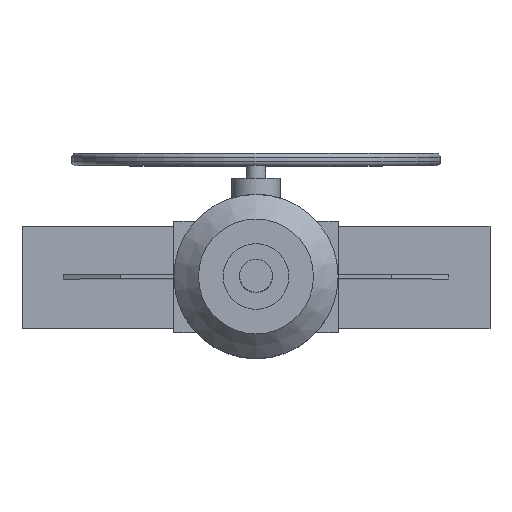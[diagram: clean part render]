
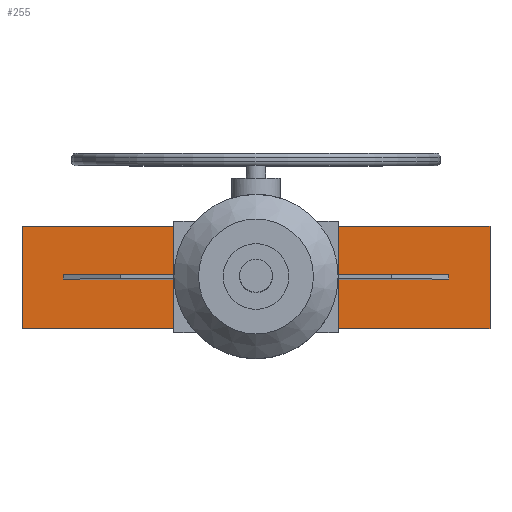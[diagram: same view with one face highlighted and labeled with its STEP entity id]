
A CAD part, top view. The second image highlights one B-rep face of the part: STEP entity #255.
In plain terms, the highlighted planar face has unit normal (0, 0, 1).
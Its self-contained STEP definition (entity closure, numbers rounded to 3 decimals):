
#255=ADVANCED_FACE('',(#2126,#2128),#2130,.T.);
#2126=FACE_BOUND('',#2127,.T.);
#2127=EDGE_LOOP('',(#3698,#3699,#3700,#3701,#3702,#3703,#3704,#3705));
#2128=FACE_BOUND('',#2129,.T.);
#2129=EDGE_LOOP('',(#3706,#3707,#3708,#3709));
#2130=PLANE('',#2131);
#2131=AXIS2_PLACEMENT_3D('',#2132,#2133,#2134);
#2132=CARTESIAN_POINT('',(0.,0.,470.));
#2133=DIRECTION('',(0.,0.,1.));
#2134=DIRECTION('',(1.,0.,0.));
#3698=ORIENTED_EDGE('',*,*,#4622,.F.);
#3699=ORIENTED_EDGE('',*,*,#4620,.T.);
#3700=ORIENTED_EDGE('',*,*,#4629,.T.);
#3701=ORIENTED_EDGE('',*,*,#4611,.T.);
#3702=ORIENTED_EDGE('',*,*,#4625,.F.);
#3703=ORIENTED_EDGE('',*,*,#4615,.T.);
#3704=ORIENTED_EDGE('',*,*,#4630,.T.);
#3705=ORIENTED_EDGE('',*,*,#4616,.T.);
#3706=ORIENTED_EDGE('',*,*,#4631,.F.);
#3707=ORIENTED_EDGE('',*,*,#4632,.F.);
#3708=ORIENTED_EDGE('',*,*,#4633,.F.);
#3709=ORIENTED_EDGE('',*,*,#4634,.F.);
#4611=EDGE_CURVE('',#5129,#5097,#5130,.T.);
#4615=EDGE_CURVE('',#5113,#5135,#5137,.T.);
#4616=EDGE_CURVE('',#5138,#5119,#5139,.T.);
#4620=EDGE_CURVE('',#5103,#5144,#5146,.T.);
#4622=EDGE_CURVE('',#5103,#5119,#5148,.T.);
#4625=EDGE_CURVE('',#5113,#5097,#5152,.T.);
#4629=EDGE_CURVE('',#5144,#5129,#5159,.T.);
#4630=EDGE_CURVE('',#5135,#5138,#5160,.T.);
#4631=EDGE_CURVE('',#5161,#5162,#5163,.T.);
#4632=EDGE_CURVE('',#5164,#5161,#5165,.F.);
#4633=EDGE_CURVE('',#5166,#5164,#5167,.T.);
#4634=EDGE_CURVE('',#5162,#5166,#5168,.T.);
#5097=VERTEX_POINT('',#5986);
#5103=VERTEX_POINT('',#5998);
#5113=VERTEX_POINT('',#6020);
#5119=VERTEX_POINT('',#6032);
#5129=VERTEX_POINT('',#6056);
#5130=LINE('',#6057,#6058);
#5135=VERTEX_POINT('',#6068);
#5137=LINE('',#6072,#6073);
#5138=VERTEX_POINT('',#6075);
#5139=LINE('',#6076,#6077);
#5144=VERTEX_POINT('',#6087);
#5146=LINE('',#6091,#6092);
#5148=LINE('',#6097,#6098);
#5152=LINE('',#6108,#6109);
#5159=LINE('',#6190,#6191);
#5160=LINE('',#6193,#6194);
#5161=VERTEX_POINT('',#6196);
#5162=VERTEX_POINT('',#6197);
#5163=LINE('',#6198,#6199);
#5164=VERTEX_POINT('',#6201);
#5165=LINE('',#6202,#6203);
#5166=VERTEX_POINT('',#6205);
#5167=LINE('',#6206,#6207);
#5168=LINE('',#6209,#6210);
#5986=CARTESIAN_POINT('',(100.,62.5,470.));
#5998=CARTESIAN_POINT('',(100.,-62.5,470.));
#6020=CARTESIAN_POINT('',(-100.,62.5,470.));
#6032=CARTESIAN_POINT('',(-100.,-62.5,470.));
#6056=CARTESIAN_POINT('',(285.,62.5,470.));
#6057=CARTESIAN_POINT('',(285.,62.5,470.));
#6058=VECTOR('',#6059,1.);
#6059=DIRECTION('',(-1.,0.,0.));
#6068=CARTESIAN_POINT('',(-285.,62.5,470.));
#6072=CARTESIAN_POINT('',(-100.,62.5,470.));
#6073=VECTOR('',#6074,1.);
#6074=DIRECTION('',(-1.,0.,0.));
#6075=CARTESIAN_POINT('',(-285.,-62.5,470.));
#6076=CARTESIAN_POINT('',(-285.,-62.5,470.));
#6077=VECTOR('',#6078,1.);
#6078=DIRECTION('',(1.,0.,0.));
#6087=CARTESIAN_POINT('',(285.,-62.5,470.));
#6091=CARTESIAN_POINT('',(100.,-62.5,470.));
#6092=VECTOR('',#6093,1.);
#6093=DIRECTION('',(1.,0.,0.));
#6097=CARTESIAN_POINT('',(100.,-62.5,470.));
#6098=VECTOR('',#6099,1.);
#6099=DIRECTION('',(-1.,0.,0.));
#6108=CARTESIAN_POINT('',(-100.,62.5,470.));
#6109=VECTOR('',#6110,1.);
#6110=DIRECTION('',(1.,0.,0.));
#6190=CARTESIAN_POINT('',(285.,-62.5,470.));
#6191=VECTOR('',#6192,1.);
#6192=DIRECTION('',(0.,1.,0.));
#6193=CARTESIAN_POINT('',(-285.,62.5,470.));
#6194=VECTOR('',#6195,1.);
#6195=DIRECTION('',(0.,-1.,0.));
#6196=CARTESIAN_POINT('',(-235.,2.5,470.));
#6197=CARTESIAN_POINT('',(-235.,-2.5,470.));
#6198=CARTESIAN_POINT('',(-235.,2.5,470.));
#6199=VECTOR('',#6200,1.);
#6200=DIRECTION('',(0.,-1.,0.));
#6201=CARTESIAN_POINT('',(235.,2.5,470.));
#6202=CARTESIAN_POINT('',(-235.,2.5,470.));
#6203=VECTOR('',#6204,1.);
#6204=DIRECTION('',(1.,0.,0.));
#6205=CARTESIAN_POINT('',(235.,-2.5,470.));
#6206=CARTESIAN_POINT('',(235.,-2.5,470.));
#6207=VECTOR('',#6208,1.);
#6208=DIRECTION('',(0.,1.,0.));
#6209=CARTESIAN_POINT('',(-235.,-2.5,470.));
#6210=VECTOR('',#6211,1.);
#6211=DIRECTION('',(1.,0.,0.));
